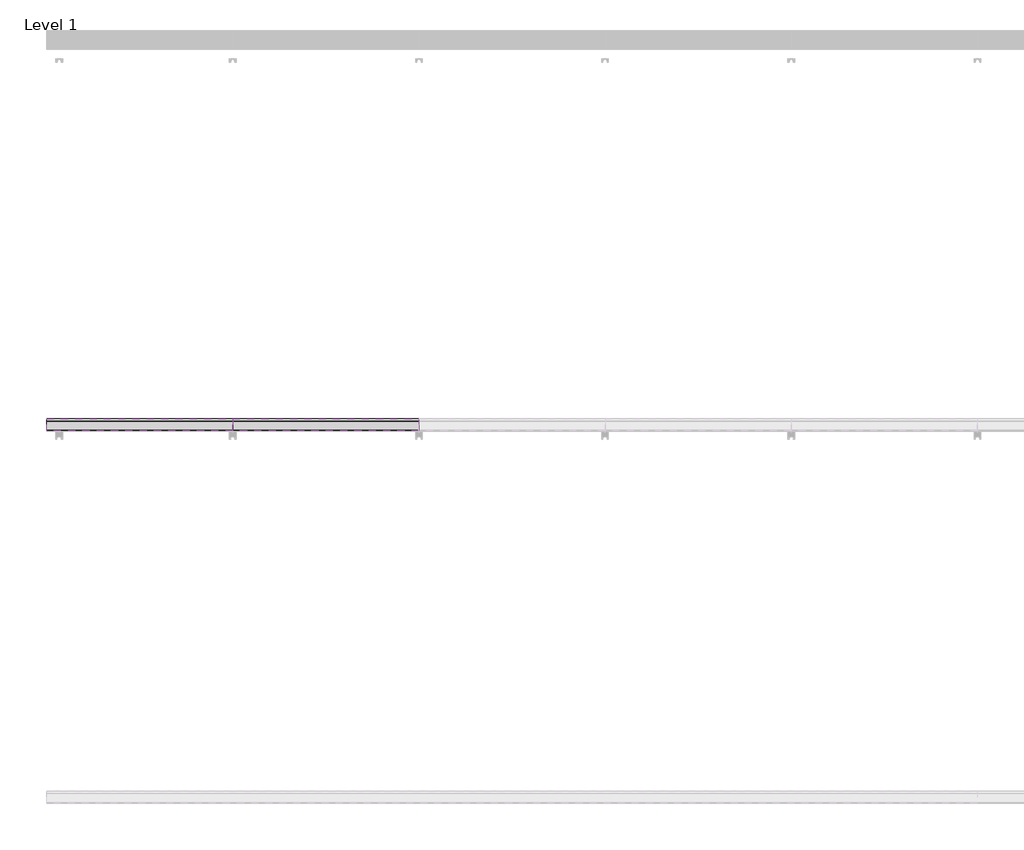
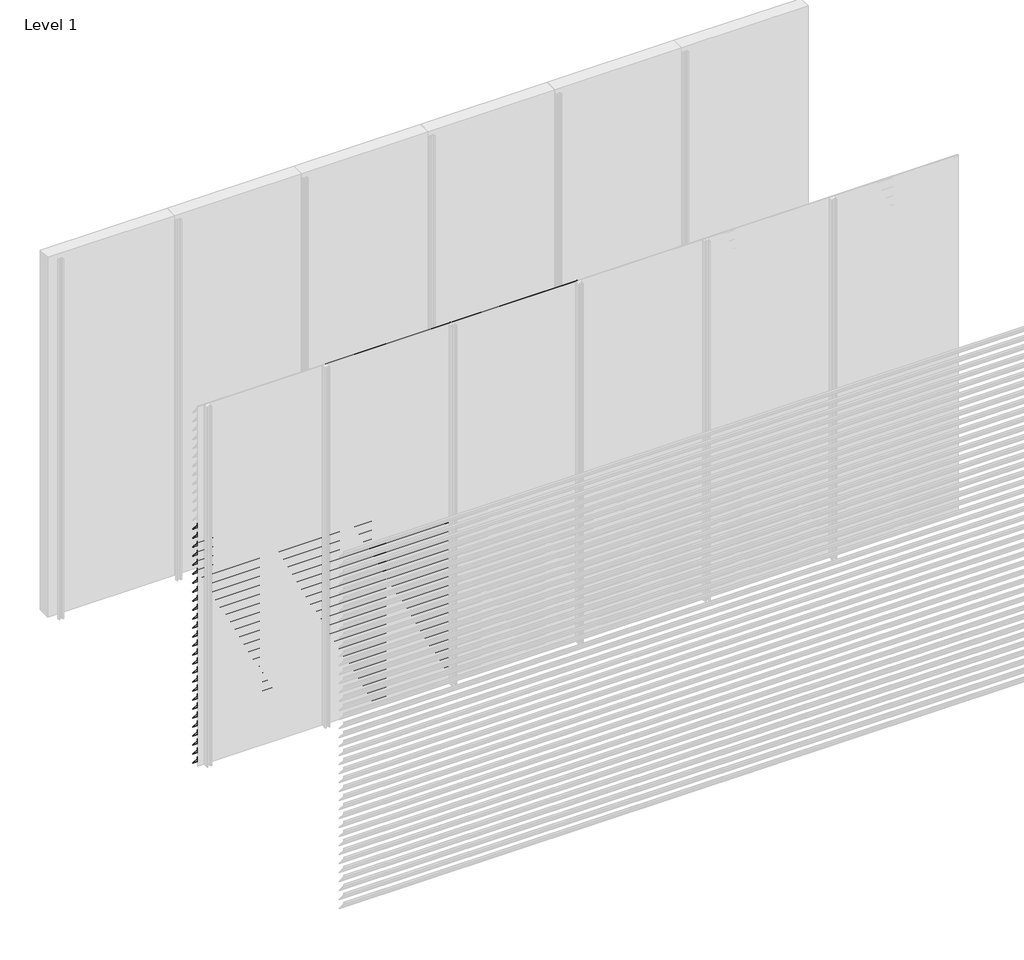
# One storey, part 27 of 35: 86 proxies.
"""IFC4 building model written with IfcOpenShell, lengths in millimetres."""

from ifc_helpers import new_model, si_unit, frame, origin, place, context, project, spatial, polyline, outline, extrude, element, save

model = new_model("IFC4")

# Units and contexts
model_context = context("Model", 3, world=origin())
ifc_project = project(units=[si_unit("LENGTHUNIT", "METRE", prefix="MILLI")], contexts=[model_context])

# Site, building, storey
site = spatial("IfcSite", under=ifc_project)
building = spatial("IfcBuilding", under=site)
storey = spatial("IfcBuildingStorey", under=building, Name="Level 1", Elevation=0.0)

# Proxies
placement = place(None, origin())
element("IfcBuildingElementProxy", 1, Name="Wall Sweeps", at=placement, inside=storey, context=model_context, shape_type="SweptSolid", body=[
    extrude(outline(polyline([(-11996.5, 2025.0), (-11996.5, 2010.5463701), (-11934.5, 1938.9330051), (-11934.5, 1935.4), (-11936.0, 1935.4), (-11936.0, 1938.3738975), (-11998.0, 2009.9872626), (-11998.0, 2025.0), (-11996.5, 2025.0)])), frame((0.0, 0.0, 0.0), z_axis=(1.0, 0.0, 0.0), x_axis=(0.0, 1.0, 0.0)), (0.0, 0.0, 1.0), 1000.0),
])
element("IfcBuildingElementProxy", 2, Name="Wall Sweeps", at=placement, inside=storey, context=model_context, shape_type="SweptSolid", body=[
    extrude(outline(polyline([(-11996.5, 1950.0), (-11996.5, 1935.5463701), (-11934.5, 1863.9330051), (-11934.5, 1860.4), (-11936.0, 1860.4), (-11936.0, 1863.3738975), (-11998.0, 1934.9872626), (-11998.0, 1950.0), (-11996.5, 1950.0)])), frame((0.0, 0.0, 0.0), z_axis=(1.0, 0.0, 0.0), x_axis=(0.0, 1.0, 0.0)), (0.0, 0.0, 1.0), 1000.0),
])
element("IfcBuildingElementProxy", 3, Name="Wall Sweeps", at=placement, inside=storey, context=model_context, shape_type="SweptSolid", body=[
    extrude(outline(polyline([(-11996.5, 1875.0), (-11996.5, 1860.5463701), (-11934.5, 1788.9330051), (-11934.5, 1785.4), (-11936.0, 1785.4), (-11936.0, 1788.3738975), (-11998.0, 1859.9872626), (-11998.0, 1875.0), (-11996.5, 1875.0)])), frame((0.0, 0.0, 0.0), z_axis=(1.0, 0.0, 0.0), x_axis=(0.0, 1.0, 0.0)), (0.0, 0.0, 1.0), 1000.0),
])
element("IfcBuildingElementProxy", 4, Name="Wall Sweeps", at=placement, inside=storey, context=model_context, shape_type="SweptSolid", body=[
    extrude(outline(polyline([(-11996.5, 1800.0), (-11996.5, 1785.5463701), (-11934.5, 1713.9330051), (-11934.5, 1710.4), (-11936.0, 1710.4), (-11936.0, 1713.3738975), (-11998.0, 1784.9872626), (-11998.0, 1800.0), (-11996.5, 1800.0)])), frame((0.0, 0.0, 0.0), z_axis=(1.0, 0.0, 0.0), x_axis=(0.0, 1.0, 0.0)), (0.0, 0.0, 1.0), 1000.0),
])
element("IfcBuildingElementProxy", 5, Name="Wall Sweeps", at=placement, inside=storey, context=model_context, shape_type="SweptSolid", body=[
    extrude(outline(polyline([(-11996.5, 1725.0), (-11996.5, 1710.5463701), (-11934.5, 1638.9330051), (-11934.5, 1635.4), (-11936.0, 1635.4), (-11936.0, 1638.3738975), (-11998.0, 1709.9872626), (-11998.0, 1725.0), (-11996.5, 1725.0)])), frame((0.0, 0.0, 0.0), z_axis=(1.0, 0.0, 0.0), x_axis=(0.0, 1.0, 0.0)), (0.0, 0.0, 1.0), 1000.0),
])
element("IfcBuildingElementProxy", 6, Name="Wall Sweeps", at=placement, inside=storey, context=model_context, shape_type="SweptSolid", body=[
    extrude(outline(polyline([(-11996.5, 1650.0), (-11996.5, 1635.5463701), (-11934.5, 1563.9330051), (-11934.5, 1560.4), (-11936.0, 1560.4), (-11936.0, 1563.3738975), (-11998.0, 1634.9872626), (-11998.0, 1650.0), (-11996.5, 1650.0)])), frame((0.0, 0.0, 0.0), z_axis=(1.0, 0.0, 0.0), x_axis=(0.0, 1.0, 0.0)), (0.0, 0.0, 1.0), 1000.0),
])
element("IfcBuildingElementProxy", 7, Name="Wall Sweeps", at=placement, inside=storey, context=model_context, shape_type="SweptSolid", body=[
    extrude(outline(polyline([(-11996.5, 1575.0), (-11996.5, 1560.5463701), (-11934.5, 1488.9330051), (-11934.5, 1485.4), (-11936.0, 1485.4), (-11936.0, 1488.3738975), (-11998.0, 1559.9872626), (-11998.0, 1575.0), (-11996.5, 1575.0)])), frame((0.0, 0.0, 0.0), z_axis=(1.0, 0.0, 0.0), x_axis=(0.0, 1.0, 0.0)), (0.0, 0.0, 1.0), 1000.0),
])
element("IfcBuildingElementProxy", 8, Name="Wall Sweeps", at=placement, inside=storey, context=model_context, shape_type="SweptSolid", body=[
    extrude(outline(polyline([(-11996.5, 1500.0), (-11996.5, 1485.5463701), (-11934.5, 1413.9330051), (-11934.5, 1410.4), (-11936.0, 1410.4), (-11936.0, 1413.3738975), (-11998.0, 1484.9872626), (-11998.0, 1500.0), (-11996.5, 1500.0)])), frame((0.0, 0.0, 0.0), z_axis=(1.0, 0.0, 0.0), x_axis=(0.0, 1.0, 0.0)), (0.0, 0.0, 1.0), 1000.0),
])
element("IfcBuildingElementProxy", 9, Name="Wall Sweeps", at=placement, inside=storey, context=model_context, shape_type="SweptSolid", body=[
    extrude(outline(polyline([(-11996.5, 1425.0), (-11996.5, 1410.5463701), (-11934.5, 1338.9330051), (-11934.5, 1335.4), (-11936.0, 1335.4), (-11936.0, 1338.3738975), (-11998.0, 1409.9872626), (-11998.0, 1425.0), (-11996.5, 1425.0)])), frame((0.0, 0.0, 0.0), z_axis=(1.0, 0.0, 0.0), x_axis=(0.0, 1.0, 0.0)), (0.0, 0.0, 1.0), 1000.0),
])
element("IfcBuildingElementProxy", 10, Name="Wall Sweeps", at=placement, inside=storey, context=model_context, shape_type="SweptSolid", body=[
    extrude(outline(polyline([(-11996.5, 1350.0), (-11996.5, 1335.5463701), (-11934.5, 1263.9330051), (-11934.5, 1260.4), (-11936.0, 1260.4), (-11936.0, 1263.3738975), (-11998.0, 1334.9872626), (-11998.0, 1350.0), (-11996.5, 1350.0)])), frame((0.0, 0.0, 0.0), z_axis=(1.0, 0.0, 0.0), x_axis=(0.0, 1.0, 0.0)), (0.0, 0.0, 1.0), 1000.0),
])
element("IfcBuildingElementProxy", 11, Name="Wall Sweeps", at=placement, inside=storey, context=model_context, shape_type="SweptSolid", body=[
    extrude(outline(polyline([(-11996.5, 1275.0), (-11996.5, 1260.5463701), (-11934.5, 1188.9330051), (-11934.5, 1185.4), (-11936.0, 1185.4), (-11936.0, 1188.3738975), (-11998.0, 1259.9872626), (-11998.0, 1275.0), (-11996.5, 1275.0)])), frame((0.0, 0.0, 0.0), z_axis=(1.0, 0.0, 0.0), x_axis=(0.0, 1.0, 0.0)), (0.0, 0.0, 1.0), 1000.0),
])
element("IfcBuildingElementProxy", 12, Name="Wall Sweeps", at=placement, inside=storey, context=model_context, shape_type="SweptSolid", body=[
    extrude(outline(polyline([(-11996.5, 1200.0), (-11996.5, 1185.5463701), (-11934.5, 1113.9330051), (-11934.5, 1110.4), (-11936.0, 1110.4), (-11936.0, 1113.3738975), (-11998.0, 1184.9872626), (-11998.0, 1200.0), (-11996.5, 1200.0)])), frame((0.0, 0.0, 0.0), z_axis=(1.0, 0.0, 0.0), x_axis=(0.0, 1.0, 0.0)), (0.0, 0.0, 1.0), 1000.0),
])
element("IfcBuildingElementProxy", 13, Name="Wall Sweeps", at=placement, inside=storey, context=model_context, shape_type="SweptSolid", body=[
    extrude(outline(polyline([(-11996.5, 1125.0), (-11996.5, 1110.5463701), (-11934.5, 1038.9330051), (-11934.5, 1035.4), (-11936.0, 1035.4), (-11936.0, 1038.3738975), (-11998.0, 1109.9872626), (-11998.0, 1125.0), (-11996.5, 1125.0)])), frame((0.0, 0.0, 0.0), z_axis=(1.0, 0.0, 0.0), x_axis=(0.0, 1.0, 0.0)), (0.0, 0.0, 1.0), 1000.0),
])
element("IfcBuildingElementProxy", 14, Name="Wall Sweeps", at=placement, inside=storey, context=model_context, shape_type="SweptSolid", body=[
    extrude(outline(polyline([(-11996.5, 1050.0), (-11996.5, 1035.5463701), (-11934.5, 963.9330051), (-11934.5, 960.4), (-11936.0, 960.4), (-11936.0, 963.3738975), (-11998.0, 1034.9872626), (-11998.0, 1050.0), (-11996.5, 1050.0)])), frame((0.0, 0.0, 0.0), z_axis=(1.0, 0.0, 0.0), x_axis=(0.0, 1.0, 0.0)), (0.0, 0.0, 1.0), 1000.0),
])
element("IfcBuildingElementProxy", 15, Name="Wall Sweeps", at=placement, inside=storey, context=model_context, shape_type="SweptSolid", body=[
    extrude(outline(polyline([(-11996.5, 975.0), (-11996.5, 960.5463701), (-11934.5, 888.9330051), (-11934.5, 885.4), (-11936.0, 885.4), (-11936.0, 888.3738975), (-11998.0, 959.9872626), (-11998.0, 975.0), (-11996.5, 975.0)])), frame((0.0, 0.0, 0.0), z_axis=(1.0, 0.0, 0.0), x_axis=(0.0, 1.0, 0.0)), (0.0, 0.0, 1.0), 1000.0),
])
element("IfcBuildingElementProxy", 16, Name="Wall Sweeps", at=placement, inside=storey, context=model_context, shape_type="SweptSolid", body=[
    extrude(outline(polyline([(-11996.5, 900.0), (-11996.5, 885.5463701), (-11934.5, 813.9330051), (-11934.5, 810.4), (-11936.0, 810.4), (-11936.0, 813.3738975), (-11998.0, 884.9872626), (-11998.0, 900.0), (-11996.5, 900.0)])), frame((0.0, 0.0, 0.0), z_axis=(1.0, 0.0, 0.0), x_axis=(0.0, 1.0, 0.0)), (0.0, 0.0, 1.0), 1000.0),
])
element("IfcBuildingElementProxy", 17, Name="Wall Sweeps", at=placement, inside=storey, context=model_context, shape_type="SweptSolid", body=[
    extrude(outline(polyline([(-11996.5, 825.0), (-11996.5, 810.5463701), (-11934.5, 738.9330051), (-11934.5, 735.4), (-11936.0, 735.4), (-11936.0, 738.3738975), (-11998.0, 809.9872626), (-11998.0, 825.0), (-11996.5, 825.0)])), frame((0.0, 0.0, 0.0), z_axis=(1.0, 0.0, 0.0), x_axis=(0.0, 1.0, 0.0)), (0.0, 0.0, 1.0), 1000.0),
])
element("IfcBuildingElementProxy", 18, Name="Wall Sweeps", at=placement, inside=storey, context=model_context, shape_type="SweptSolid", body=[
    extrude(outline(polyline([(-11996.5, 750.0), (-11996.5, 735.5463701), (-11934.5, 663.9330051), (-11934.5, 660.4), (-11936.0, 660.4), (-11936.0, 663.3738975), (-11998.0, 734.9872626), (-11998.0, 750.0), (-11996.5, 750.0)])), frame((0.0, 0.0, 0.0), z_axis=(1.0, 0.0, 0.0), x_axis=(0.0, 1.0, 0.0)), (0.0, 0.0, 1.0), 1000.0),
])
element("IfcBuildingElementProxy", 19, Name="Wall Sweeps", at=placement, inside=storey, context=model_context, shape_type="SweptSolid", body=[
    extrude(outline(polyline([(-11996.5, 675.0), (-11996.5, 660.5463701), (-11934.5, 588.9330051), (-11934.5, 585.4), (-11936.0, 585.4), (-11936.0, 588.3738975), (-11998.0, 659.9872626), (-11998.0, 675.0), (-11996.5, 675.0)])), frame((0.0, 0.0, 0.0), z_axis=(1.0, 0.0, 0.0), x_axis=(0.0, 1.0, 0.0)), (0.0, 0.0, 1.0), 1000.0),
])
element("IfcBuildingElementProxy", 20, Name="Wall Sweeps", at=placement, inside=storey, context=model_context, shape_type="SweptSolid", body=[
    extrude(outline(polyline([(-11996.5, 600.0), (-11996.5, 585.5463701), (-11934.5, 513.9330051), (-11934.5, 510.4), (-11936.0, 510.4), (-11936.0, 513.3738975), (-11998.0, 584.9872626), (-11998.0, 600.0), (-11996.5, 600.0)])), frame((0.0, 0.0, 0.0), z_axis=(1.0, 0.0, 0.0), x_axis=(0.0, 1.0, 0.0)), (0.0, 0.0, 1.0), 1000.0),
])
element("IfcBuildingElementProxy", 21, Name="Wall Sweeps", at=placement, inside=storey, context=model_context, shape_type="SweptSolid", body=[
    extrude(outline(polyline([(-11996.5, 525.0), (-11996.5, 510.5463701), (-11934.5, 438.9330051), (-11934.5, 435.4), (-11936.0, 435.4), (-11936.0, 438.3738975), (-11998.0, 509.9872626), (-11998.0, 525.0), (-11996.5, 525.0)])), frame((0.0, 0.0, 0.0), z_axis=(1.0, 0.0, 0.0), x_axis=(0.0, 1.0, 0.0)), (0.0, 0.0, 1.0), 1000.0),
])
element("IfcBuildingElementProxy", 22, Name="Wall Sweeps", at=placement, inside=storey, context=model_context, shape_type="SweptSolid", body=[
    extrude(outline(polyline([(-11996.5, 450.0), (-11996.5, 435.5463701), (-11934.5, 363.9330051), (-11934.5, 360.4), (-11936.0, 360.4), (-11936.0, 363.3738975), (-11998.0, 434.9872626), (-11998.0, 450.0), (-11996.5, 450.0)])), frame((0.0, 0.0, 0.0), z_axis=(1.0, 0.0, 0.0), x_axis=(0.0, 1.0, 0.0)), (0.0, 0.0, 1.0), 1000.0),
])
element("IfcBuildingElementProxy", 23, Name="Wall Sweeps", at=placement, inside=storey, context=model_context, shape_type="SweptSolid", body=[
    extrude(outline(polyline([(-11996.5, 375.0), (-11996.5, 360.5463701), (-11934.5, 288.9330051), (-11934.5, 285.4), (-11936.0, 285.4), (-11936.0, 288.3738975), (-11998.0, 359.9872626), (-11998.0, 375.0), (-11996.5, 375.0)])), frame((0.0, 0.0, 0.0), z_axis=(1.0, 0.0, 0.0), x_axis=(0.0, 1.0, 0.0)), (0.0, 0.0, 1.0), 1000.0),
])
element("IfcBuildingElementProxy", 24, Name="Wall Sweeps", at=placement, inside=storey, context=model_context, shape_type="SweptSolid", body=[
    extrude(outline(polyline([(-11996.5, 300.0), (-11996.5, 285.5463701), (-11934.5, 213.9330051), (-11934.5, 210.4), (-11936.0, 210.4), (-11936.0, 213.3738975), (-11998.0, 284.9872626), (-11998.0, 300.0), (-11996.5, 300.0)])), frame((0.0, 0.0, 0.0), z_axis=(1.0, 0.0, 0.0), x_axis=(0.0, 1.0, 0.0)), (0.0, 0.0, 1.0), 1000.0),
])
element("IfcBuildingElementProxy", 25, Name="Wall Sweeps", at=placement, inside=storey, context=model_context, shape_type="SweptSolid", body=[
    extrude(outline(polyline([(-11996.5, 225.0), (-11996.5, 210.5463701), (-11934.5, 138.9330051), (-11934.5, 135.4), (-11936.0, 135.4), (-11936.0, 138.3738975), (-11998.0, 209.9872626), (-11998.0, 225.0), (-11996.5, 225.0)])), frame((0.0, 0.0, 0.0), z_axis=(1.0, 0.0, 0.0), x_axis=(0.0, 1.0, 0.0)), (0.0, 0.0, 1.0), 1000.0),
])
element("IfcBuildingElementProxy", 26, Name="Wall Sweeps", at=placement, inside=storey, context=model_context, shape_type="SweptSolid", body=[
    extrude(outline(polyline([(-11996.5, 150.0), (-11996.5, 135.5463701), (-11934.5, 63.9330051), (-11934.5, 60.4), (-11936.0, 60.4), (-11936.0, 63.3738975), (-11998.0, 134.9872626), (-11998.0, 150.0), (-11996.5, 150.0)])), frame((0.0, 0.0, 0.0), z_axis=(1.0, 0.0, 0.0), x_axis=(0.0, 1.0, 0.0)), (0.0, 0.0, 1.0), 1000.0),
])
element("IfcBuildingElementProxy", 27, Name="Wall Sweeps", at=placement, inside=storey, context=model_context, shape_type="SweptSolid", body=[
    extrude(outline(polyline([(-11996.5, 75.0), (-11996.5, 60.5463701), (-11934.5, -11.0669949), (-11934.5, -14.6), (-11936.0, -14.6), (-11936.0, -11.6261025), (-11998.0, 59.9872626), (-11998.0, 75.0), (-11996.5, 75.0)])), frame((0.0, 0.0, 0.0), z_axis=(1.0, 0.0, 0.0), x_axis=(0.0, 1.0, 0.0)), (0.0, 0.0, 1.0), 1000.0),
])
element("IfcBuildingElementProxy", 28, Name="Wall Sweeps", at=placement, inside=storey, context=model_context, shape_type="SweptSolid", body=[
    extrude(outline(polyline([(-11996.5, 3000.0), (-11996.5, 2985.5463701), (-11934.5, 2913.9330051), (-11934.5, 2910.4), (-11936.0, 2910.4), (-11936.0, 2913.3738975), (-11998.0, 2984.9872626), (-11998.0, 3000.0), (-11996.5, 3000.0)])), frame((1000.0, 0.0, 0.0), z_axis=(1.0, 0.0, 0.0), x_axis=(0.0, 1.0, 0.0)), (0.0, 0.0, 1.0), 1000.0),
])
element("IfcBuildingElementProxy", 29, Name="Wall Sweeps", at=placement, inside=storey, context=model_context, shape_type="SweptSolid", body=[
    extrude(outline(polyline([(-11996.5, 2925.0), (-11996.5, 2910.5463701), (-11934.5, 2838.9330051), (-11934.5, 2835.4), (-11936.0, 2835.4), (-11936.0, 2838.3738975), (-11998.0, 2909.9872626), (-11998.0, 2925.0), (-11996.5, 2925.0)])), frame((1000.0, 0.0, 0.0), z_axis=(1.0, 0.0, 0.0), x_axis=(0.0, 1.0, 0.0)), (0.0, 0.0, 1.0), 1000.0),
])
element("IfcBuildingElementProxy", 30, Name="Wall Sweeps", at=placement, inside=storey, context=model_context, shape_type="SweptSolid", body=[
    extrude(outline(polyline([(-11996.5, 2850.0), (-11996.5, 2835.5463701), (-11934.5, 2763.9330051), (-11934.5, 2760.4), (-11936.0, 2760.4), (-11936.0, 2763.3738975), (-11998.0, 2834.9872626), (-11998.0, 2850.0), (-11996.5, 2850.0)])), frame((1000.0, 0.0, 0.0), z_axis=(1.0, 0.0, 0.0), x_axis=(0.0, 1.0, 0.0)), (0.0, 0.0, 1.0), 1000.0),
])
element("IfcBuildingElementProxy", 31, Name="Wall Sweeps", at=placement, inside=storey, context=model_context, shape_type="SweptSolid", body=[
    extrude(outline(polyline([(-11996.5, 2775.0), (-11996.5, 2760.5463701), (-11934.5, 2688.9330051), (-11934.5, 2685.4), (-11936.0, 2685.4), (-11936.0, 2688.3738975), (-11998.0, 2759.9872626), (-11998.0, 2775.0), (-11996.5, 2775.0)])), frame((1000.0, 0.0, 0.0), z_axis=(1.0, 0.0, 0.0), x_axis=(0.0, 1.0, 0.0)), (0.0, 0.0, 1.0), 1000.0),
])
element("IfcBuildingElementProxy", 32, Name="Wall Sweeps", at=placement, inside=storey, context=model_context, shape_type="SweptSolid", body=[
    extrude(outline(polyline([(-11996.5, 2700.0), (-11996.5, 2685.5463701), (-11934.5, 2613.9330051), (-11934.5, 2610.4), (-11936.0, 2610.4), (-11936.0, 2613.3738975), (-11998.0, 2684.9872626), (-11998.0, 2700.0), (-11996.5, 2700.0)])), frame((1000.0, 0.0, 0.0), z_axis=(1.0, 0.0, 0.0), x_axis=(0.0, 1.0, 0.0)), (0.0, 0.0, 1.0), 1000.0),
])
element("IfcBuildingElementProxy", 33, Name="Wall Sweeps", at=placement, inside=storey, context=model_context, shape_type="SweptSolid", body=[
    extrude(outline(polyline([(-11996.5, 2625.0), (-11996.5, 2610.5463701), (-11934.5, 2538.9330051), (-11934.5, 2535.4), (-11936.0, 2535.4), (-11936.0, 2538.3738975), (-11998.0, 2609.9872626), (-11998.0, 2625.0), (-11996.5, 2625.0)])), frame((1000.0, 0.0, 0.0), z_axis=(1.0, 0.0, 0.0), x_axis=(0.0, 1.0, 0.0)), (0.0, 0.0, 1.0), 1000.0),
])
element("IfcBuildingElementProxy", 34, Name="Wall Sweeps", at=placement, inside=storey, context=model_context, shape_type="SweptSolid", body=[
    extrude(outline(polyline([(-11996.5, 2550.0), (-11996.5, 2535.5463701), (-11934.5, 2463.9330051), (-11934.5, 2460.4), (-11936.0, 2460.4), (-11936.0, 2463.3738975), (-11998.0, 2534.9872626), (-11998.0, 2550.0), (-11996.5, 2550.0)])), frame((1000.0, 0.0, 0.0), z_axis=(1.0, 0.0, 0.0), x_axis=(0.0, 1.0, 0.0)), (0.0, 0.0, 1.0), 1000.0),
])
element("IfcBuildingElementProxy", 35, Name="Wall Sweeps", at=placement, inside=storey, context=model_context, shape_type="SweptSolid", body=[
    extrude(outline(polyline([(-11996.5, 2475.0), (-11996.5, 2460.5463701), (-11934.5, 2388.9330051), (-11934.5, 2385.4), (-11936.0, 2385.4), (-11936.0, 2388.3738975), (-11998.0, 2459.9872626), (-11998.0, 2475.0), (-11996.5, 2475.0)])), frame((1000.0, 0.0, 0.0), z_axis=(1.0, 0.0, 0.0), x_axis=(0.0, 1.0, 0.0)), (0.0, 0.0, 1.0), 1000.0),
])
element("IfcBuildingElementProxy", 36, Name="Wall Sweeps", at=placement, inside=storey, context=model_context, shape_type="SweptSolid", body=[
    extrude(outline(polyline([(-11996.5, 2400.0), (-11996.5, 2385.5463701), (-11934.5, 2313.9330051), (-11934.5, 2310.4), (-11936.0, 2310.4), (-11936.0, 2313.3738975), (-11998.0, 2384.9872626), (-11998.0, 2400.0), (-11996.5, 2400.0)])), frame((1000.0, 0.0, 0.0), z_axis=(1.0, 0.0, 0.0), x_axis=(0.0, 1.0, 0.0)), (0.0, 0.0, 1.0), 1000.0),
])
element("IfcBuildingElementProxy", 37, Name="Wall Sweeps", at=placement, inside=storey, context=model_context, shape_type="SweptSolid", body=[
    extrude(outline(polyline([(-11996.5, 2325.0), (-11996.5, 2310.5463701), (-11934.5, 2238.9330051), (-11934.5, 2235.4), (-11936.0, 2235.4), (-11936.0, 2238.3738975), (-11998.0, 2309.9872626), (-11998.0, 2325.0), (-11996.5, 2325.0)])), frame((1000.0, 0.0, 0.0), z_axis=(1.0, 0.0, 0.0), x_axis=(0.0, 1.0, 0.0)), (0.0, 0.0, 1.0), 1000.0),
])
element("IfcBuildingElementProxy", 38, Name="Wall Sweeps", at=placement, inside=storey, context=model_context, shape_type="SweptSolid", body=[
    extrude(outline(polyline([(-11996.5, 2250.0), (-11996.5, 2235.5463701), (-11934.5, 2163.9330051), (-11934.5, 2160.4), (-11936.0, 2160.4), (-11936.0, 2163.3738975), (-11998.0, 2234.9872626), (-11998.0, 2250.0), (-11996.5, 2250.0)])), frame((1000.0, 0.0, 0.0), z_axis=(1.0, 0.0, 0.0), x_axis=(0.0, 1.0, 0.0)), (0.0, 0.0, 1.0), 1000.0),
])
element("IfcBuildingElementProxy", 39, Name="Wall Sweeps", at=placement, inside=storey, context=model_context, shape_type="SweptSolid", body=[
    extrude(outline(polyline([(-11996.5, 2175.0), (-11996.5, 2160.5463701), (-11934.5, 2088.9330051), (-11934.5, 2085.4), (-11936.0, 2085.4), (-11936.0, 2088.3738975), (-11998.0, 2159.9872626), (-11998.0, 2175.0), (-11996.5, 2175.0)])), frame((1000.0, 0.0, 0.0), z_axis=(1.0, 0.0, 0.0), x_axis=(0.0, 1.0, 0.0)), (0.0, 0.0, 1.0), 1000.0),
])
element("IfcBuildingElementProxy", 40, Name="Wall Sweeps", at=placement, inside=storey, context=model_context, shape_type="SweptSolid", body=[
    extrude(outline(polyline([(-11996.5, 2100.0), (-11996.5, 2085.5463701), (-11934.5, 2013.9330051), (-11934.5, 2010.4), (-11936.0, 2010.4), (-11936.0, 2013.3738975), (-11998.0, 2084.9872626), (-11998.0, 2100.0), (-11996.5, 2100.0)])), frame((1000.0, 0.0, 0.0), z_axis=(1.0, 0.0, 0.0), x_axis=(0.0, 1.0, 0.0)), (0.0, 0.0, 1.0), 1000.0),
])
element("IfcBuildingElementProxy", 41, Name="Wall Sweeps", at=placement, inside=storey, context=model_context, shape_type="SweptSolid", body=[
    extrude(outline(polyline([(-11996.5, 2025.0), (-11996.5, 2010.5463701), (-11934.5, 1938.9330051), (-11934.5, 1935.4), (-11936.0, 1935.4), (-11936.0, 1938.3738975), (-11998.0, 2009.9872626), (-11998.0, 2025.0), (-11996.5, 2025.0)])), frame((1000.0, 0.0, 0.0), z_axis=(1.0, 0.0, 0.0), x_axis=(0.0, 1.0, 0.0)), (0.0, 0.0, 1.0), 1000.0),
])
element("IfcBuildingElementProxy", 42, Name="Wall Sweeps", at=placement, inside=storey, context=model_context, shape_type="SweptSolid", body=[
    extrude(outline(polyline([(-11996.5, 1950.0), (-11996.5, 1935.5463701), (-11934.5, 1863.9330051), (-11934.5, 1860.4), (-11936.0, 1860.4), (-11936.0, 1863.3738975), (-11998.0, 1934.9872626), (-11998.0, 1950.0), (-11996.5, 1950.0)])), frame((1000.0, 0.0, 0.0), z_axis=(1.0, 0.0, 0.0), x_axis=(0.0, 1.0, 0.0)), (0.0, 0.0, 1.0), 1000.0),
])
element("IfcBuildingElementProxy", 43, Name="Wall Sweeps", at=placement, inside=storey, context=model_context, shape_type="SweptSolid", body=[
    extrude(outline(polyline([(-11996.5, 1875.0), (-11996.5, 1860.5463701), (-11934.5, 1788.9330051), (-11934.5, 1785.4), (-11936.0, 1785.4), (-11936.0, 1788.3738975), (-11998.0, 1859.9872626), (-11998.0, 1875.0), (-11996.5, 1875.0)])), frame((1000.0, 0.0, 0.0), z_axis=(1.0, 0.0, 0.0), x_axis=(0.0, 1.0, 0.0)), (0.0, 0.0, 1.0), 1000.0),
])
element("IfcBuildingElementProxy", 44, Name="Wall Sweeps", at=placement, inside=storey, context=model_context, shape_type="SweptSolid", body=[
    extrude(outline(polyline([(-11996.5, 1800.0), (-11996.5, 1785.5463701), (-11934.5, 1713.9330051), (-11934.5, 1710.4), (-11936.0, 1710.4), (-11936.0, 1713.3738975), (-11998.0, 1784.9872626), (-11998.0, 1800.0), (-11996.5, 1800.0)])), frame((1000.0, 0.0, 0.0), z_axis=(1.0, 0.0, 0.0), x_axis=(0.0, 1.0, 0.0)), (0.0, 0.0, 1.0), 1000.0),
])
element("IfcBuildingElementProxy", 45, Name="Wall Sweeps", at=placement, inside=storey, context=model_context, shape_type="SweptSolid", body=[
    extrude(outline(polyline([(-11996.5, 1725.0), (-11996.5, 1710.5463701), (-11934.5, 1638.9330051), (-11934.5, 1635.4), (-11936.0, 1635.4), (-11936.0, 1638.3738975), (-11998.0, 1709.9872626), (-11998.0, 1725.0), (-11996.5, 1725.0)])), frame((1000.0, 0.0, 0.0), z_axis=(1.0, 0.0, 0.0), x_axis=(0.0, 1.0, 0.0)), (0.0, 0.0, 1.0), 1000.0),
])
element("IfcBuildingElementProxy", 46, Name="Wall Sweeps", at=placement, inside=storey, context=model_context, shape_type="SweptSolid", body=[
    extrude(outline(polyline([(-11996.5, 1650.0), (-11996.5, 1635.5463701), (-11934.5, 1563.9330051), (-11934.5, 1560.4), (-11936.0, 1560.4), (-11936.0, 1563.3738975), (-11998.0, 1634.9872626), (-11998.0, 1650.0), (-11996.5, 1650.0)])), frame((1000.0, 0.0, 0.0), z_axis=(1.0, 0.0, 0.0), x_axis=(0.0, 1.0, 0.0)), (0.0, 0.0, 1.0), 1000.0),
])
element("IfcBuildingElementProxy", 47, Name="Wall Sweeps", at=placement, inside=storey, context=model_context, shape_type="SweptSolid", body=[
    extrude(outline(polyline([(-11996.5, 1575.0), (-11996.5, 1560.5463701), (-11934.5, 1488.9330051), (-11934.5, 1485.4), (-11936.0, 1485.4), (-11936.0, 1488.3738975), (-11998.0, 1559.9872626), (-11998.0, 1575.0), (-11996.5, 1575.0)])), frame((1000.0, 0.0, 0.0), z_axis=(1.0, 0.0, 0.0), x_axis=(0.0, 1.0, 0.0)), (0.0, 0.0, 1.0), 1000.0),
])
element("IfcBuildingElementProxy", 48, Name="Wall Sweeps", at=placement, inside=storey, context=model_context, shape_type="SweptSolid", body=[
    extrude(outline(polyline([(-11996.5, 1500.0), (-11996.5, 1485.5463701), (-11934.5, 1413.9330051), (-11934.5, 1410.4), (-11936.0, 1410.4), (-11936.0, 1413.3738975), (-11998.0, 1484.9872626), (-11998.0, 1500.0), (-11996.5, 1500.0)])), frame((1000.0, 0.0, 0.0), z_axis=(1.0, 0.0, 0.0), x_axis=(0.0, 1.0, 0.0)), (0.0, 0.0, 1.0), 1000.0),
])
element("IfcBuildingElementProxy", 49, Name="Wall Sweeps", at=placement, inside=storey, context=model_context, shape_type="SweptSolid", body=[
    extrude(outline(polyline([(-11996.5, 1425.0), (-11996.5, 1410.5463701), (-11934.5, 1338.9330051), (-11934.5, 1335.4), (-11936.0, 1335.4), (-11936.0, 1338.3738975), (-11998.0, 1409.9872626), (-11998.0, 1425.0), (-11996.5, 1425.0)])), frame((1000.0, 0.0, 0.0), z_axis=(1.0, 0.0, 0.0), x_axis=(0.0, 1.0, 0.0)), (0.0, 0.0, 1.0), 1000.0),
])
element("IfcBuildingElementProxy", 50, Name="Wall Sweeps", at=placement, inside=storey, context=model_context, shape_type="SweptSolid", body=[
    extrude(outline(polyline([(-11996.5, 1350.0), (-11996.5, 1335.5463701), (-11934.5, 1263.9330051), (-11934.5, 1260.4), (-11936.0, 1260.4), (-11936.0, 1263.3738975), (-11998.0, 1334.9872626), (-11998.0, 1350.0), (-11996.5, 1350.0)])), frame((1000.0, 0.0, 0.0), z_axis=(1.0, 0.0, 0.0), x_axis=(0.0, 1.0, 0.0)), (0.0, 0.0, 1.0), 1000.0),
])
element("IfcBuildingElementProxy", 51, Name="Wall Sweeps", at=placement, inside=storey, context=model_context, shape_type="SweptSolid", body=[
    extrude(outline(polyline([(-11996.5, 1275.0), (-11996.5, 1260.5463701), (-11934.5, 1188.9330051), (-11934.5, 1185.4), (-11936.0, 1185.4), (-11936.0, 1188.3738975), (-11998.0, 1259.9872626), (-11998.0, 1275.0), (-11996.5, 1275.0)])), frame((1000.0, 0.0, 0.0), z_axis=(1.0, 0.0, 0.0), x_axis=(0.0, 1.0, 0.0)), (0.0, 0.0, 1.0), 1000.0),
])
element("IfcBuildingElementProxy", 52, Name="Wall Sweeps", at=placement, inside=storey, context=model_context, shape_type="SweptSolid", body=[
    extrude(outline(polyline([(-11996.5, 1200.0), (-11996.5, 1185.5463701), (-11934.5, 1113.9330051), (-11934.5, 1110.4), (-11936.0, 1110.4), (-11936.0, 1113.3738975), (-11998.0, 1184.9872626), (-11998.0, 1200.0), (-11996.5, 1200.0)])), frame((1000.0, 0.0, 0.0), z_axis=(1.0, 0.0, 0.0), x_axis=(0.0, 1.0, 0.0)), (0.0, 0.0, 1.0), 1000.0),
])
element("IfcBuildingElementProxy", 53, Name="Wall Sweeps", at=placement, inside=storey, context=model_context, shape_type="SweptSolid", body=[
    extrude(outline(polyline([(-11996.5, 1125.0), (-11996.5, 1110.5463701), (-11934.5, 1038.9330051), (-11934.5, 1035.4), (-11936.0, 1035.4), (-11936.0, 1038.3738975), (-11998.0, 1109.9872626), (-11998.0, 1125.0), (-11996.5, 1125.0)])), frame((1000.0, 0.0, 0.0), z_axis=(1.0, 0.0, 0.0), x_axis=(0.0, 1.0, 0.0)), (0.0, 0.0, 1.0), 1000.0),
])
element("IfcBuildingElementProxy", 54, Name="Wall Sweeps", at=placement, inside=storey, context=model_context, shape_type="SweptSolid", body=[
    extrude(outline(polyline([(-11996.5, 1050.0), (-11996.5, 1035.5463701), (-11934.5, 963.9330051), (-11934.5, 960.4), (-11936.0, 960.4), (-11936.0, 963.3738975), (-11998.0, 1034.9872626), (-11998.0, 1050.0), (-11996.5, 1050.0)])), frame((1000.0, 0.0, 0.0), z_axis=(1.0, 0.0, 0.0), x_axis=(0.0, 1.0, 0.0)), (0.0, 0.0, 1.0), 1000.0),
])
element("IfcBuildingElementProxy", 55, Name="Wall Sweeps", at=placement, inside=storey, context=model_context, shape_type="SweptSolid", body=[
    extrude(outline(polyline([(-11996.5, 975.0), (-11996.5, 960.5463701), (-11934.5, 888.9330051), (-11934.5, 885.4), (-11936.0, 885.4), (-11936.0, 888.3738975), (-11998.0, 959.9872626), (-11998.0, 975.0), (-11996.5, 975.0)])), frame((1000.0, 0.0, 0.0), z_axis=(1.0, 0.0, 0.0), x_axis=(0.0, 1.0, 0.0)), (0.0, 0.0, 1.0), 1000.0),
])
element("IfcBuildingElementProxy", 56, Name="Wall Sweeps", at=placement, inside=storey, context=model_context, shape_type="SweptSolid", body=[
    extrude(outline(polyline([(-11996.5, 900.0), (-11996.5, 885.5463701), (-11934.5, 813.9330051), (-11934.5, 810.4), (-11936.0, 810.4), (-11936.0, 813.3738975), (-11998.0, 884.9872626), (-11998.0, 900.0), (-11996.5, 900.0)])), frame((1000.0, 0.0, 0.0), z_axis=(1.0, 0.0, 0.0), x_axis=(0.0, 1.0, 0.0)), (0.0, 0.0, 1.0), 1000.0),
])
element("IfcBuildingElementProxy", 57, Name="Wall Sweeps", at=placement, inside=storey, context=model_context, shape_type="SweptSolid", body=[
    extrude(outline(polyline([(-11996.5, 825.0), (-11996.5, 810.5463701), (-11934.5, 738.9330051), (-11934.5, 735.4), (-11936.0, 735.4), (-11936.0, 738.3738975), (-11998.0, 809.9872626), (-11998.0, 825.0), (-11996.5, 825.0)])), frame((1000.0, 0.0, 0.0), z_axis=(1.0, 0.0, 0.0), x_axis=(0.0, 1.0, 0.0)), (0.0, 0.0, 1.0), 1000.0),
])
element("IfcBuildingElementProxy", 58, Name="Wall Sweeps", at=placement, inside=storey, context=model_context, shape_type="SweptSolid", body=[
    extrude(outline(polyline([(-11996.5, 750.0), (-11996.5, 735.5463701), (-11934.5, 663.9330051), (-11934.5, 660.4), (-11936.0, 660.4), (-11936.0, 663.3738975), (-11998.0, 734.9872626), (-11998.0, 750.0), (-11996.5, 750.0)])), frame((1000.0, 0.0, 0.0), z_axis=(1.0, 0.0, 0.0), x_axis=(0.0, 1.0, 0.0)), (0.0, 0.0, 1.0), 1000.0),
])
element("IfcBuildingElementProxy", 59, Name="Wall Sweeps", at=placement, inside=storey, context=model_context, shape_type="SweptSolid", body=[
    extrude(outline(polyline([(-11996.5, 675.0), (-11996.5, 660.5463701), (-11934.5, 588.9330051), (-11934.5, 585.4), (-11936.0, 585.4), (-11936.0, 588.3738975), (-11998.0, 659.9872626), (-11998.0, 675.0), (-11996.5, 675.0)])), frame((1000.0, 0.0, 0.0), z_axis=(1.0, 0.0, 0.0), x_axis=(0.0, 1.0, 0.0)), (0.0, 0.0, 1.0), 1000.0),
])
element("IfcBuildingElementProxy", 60, Name="Wall Sweeps", at=placement, inside=storey, context=model_context, shape_type="SweptSolid", body=[
    extrude(outline(polyline([(-11996.5, 600.0), (-11996.5, 585.5463701), (-11934.5, 513.9330051), (-11934.5, 510.4), (-11936.0, 510.4), (-11936.0, 513.3738975), (-11998.0, 584.9872626), (-11998.0, 600.0), (-11996.5, 600.0)])), frame((1000.0, 0.0, 0.0), z_axis=(1.0, 0.0, 0.0), x_axis=(0.0, 1.0, 0.0)), (0.0, 0.0, 1.0), 1000.0),
])
element("IfcBuildingElementProxy", 61, Name="Wall Sweeps", at=placement, inside=storey, context=model_context, shape_type="SweptSolid", body=[
    extrude(outline(polyline([(-11996.5, 525.0), (-11996.5, 510.5463701), (-11934.5, 438.9330051), (-11934.5, 435.4), (-11936.0, 435.4), (-11936.0, 438.3738975), (-11998.0, 509.9872626), (-11998.0, 525.0), (-11996.5, 525.0)])), frame((1000.0, 0.0, 0.0), z_axis=(1.0, 0.0, 0.0), x_axis=(0.0, 1.0, 0.0)), (0.0, 0.0, 1.0), 1000.0),
])
element("IfcBuildingElementProxy", 62, Name="Wall Sweeps", at=placement, inside=storey, context=model_context, shape_type="SweptSolid", body=[
    extrude(outline(polyline([(-11996.5, 450.0), (-11996.5, 435.5463701), (-11934.5, 363.9330051), (-11934.5, 360.4), (-11936.0, 360.4), (-11936.0, 363.3738975), (-11998.0, 434.9872626), (-11998.0, 450.0), (-11996.5, 450.0)])), frame((1000.0, 0.0, 0.0), z_axis=(1.0, 0.0, 0.0), x_axis=(0.0, 1.0, 0.0)), (0.0, 0.0, 1.0), 1000.0),
])
element("IfcBuildingElementProxy", 63, Name="Wall Sweeps", at=placement, inside=storey, context=model_context, shape_type="SweptSolid", body=[
    extrude(outline(polyline([(-11996.5, 375.0), (-11996.5, 360.5463701), (-11934.5, 288.9330051), (-11934.5, 285.4), (-11936.0, 285.4), (-11936.0, 288.3738975), (-11998.0, 359.9872626), (-11998.0, 375.0), (-11996.5, 375.0)])), frame((1000.0, 0.0, 0.0), z_axis=(1.0, 0.0, 0.0), x_axis=(0.0, 1.0, 0.0)), (0.0, 0.0, 1.0), 1000.0),
])
element("IfcBuildingElementProxy", 64, Name="Wall Sweeps", at=placement, inside=storey, context=model_context, shape_type="SweptSolid", body=[
    extrude(outline(polyline([(-11996.5, 300.0), (-11996.5, 285.5463701), (-11934.5, 213.9330051), (-11934.5, 210.4), (-11936.0, 210.4), (-11936.0, 213.3738975), (-11998.0, 284.9872626), (-11998.0, 300.0), (-11996.5, 300.0)])), frame((1000.0, 0.0, 0.0), z_axis=(1.0, 0.0, 0.0), x_axis=(0.0, 1.0, 0.0)), (0.0, 0.0, 1.0), 1000.0),
])
element("IfcBuildingElementProxy", 65, Name="Wall Sweeps", at=placement, inside=storey, context=model_context, shape_type="SweptSolid", body=[
    extrude(outline(polyline([(-11996.5, 225.0), (-11996.5, 210.5463701), (-11934.5, 138.9330051), (-11934.5, 135.4), (-11936.0, 135.4), (-11936.0, 138.3738975), (-11998.0, 209.9872626), (-11998.0, 225.0), (-11996.5, 225.0)])), frame((1000.0, 0.0, 0.0), z_axis=(1.0, 0.0, 0.0), x_axis=(0.0, 1.0, 0.0)), (0.0, 0.0, 1.0), 1000.0),
])
element("IfcBuildingElementProxy", 66, Name="Wall Sweeps", at=placement, inside=storey, context=model_context, shape_type="SweptSolid", body=[
    extrude(outline(polyline([(-11996.5, 150.0), (-11996.5, 135.5463701), (-11934.5, 63.9330051), (-11934.5, 60.4), (-11936.0, 60.4), (-11936.0, 63.3738975), (-11998.0, 134.9872626), (-11998.0, 150.0), (-11996.5, 150.0)])), frame((1000.0, 0.0, 0.0), z_axis=(1.0, 0.0, 0.0), x_axis=(0.0, 1.0, 0.0)), (0.0, 0.0, 1.0), 1000.0),
])
element("IfcBuildingElementProxy", 67, Name="Wall Sweeps", at=placement, inside=storey, context=model_context, shape_type="SweptSolid", body=[
    extrude(outline(polyline([(-11996.5, 75.0), (-11996.5, 60.5463701), (-11934.5, -11.0669949), (-11934.5, -14.6), (-11936.0, -14.6), (-11936.0, -11.6261025), (-11998.0, 59.9872626), (-11998.0, 75.0), (-11996.5, 75.0)])), frame((1000.0, 0.0, 0.0), z_axis=(1.0, 0.0, 0.0), x_axis=(0.0, 1.0, 0.0)), (0.0, 0.0, 1.0), 1000.0),
])
element("IfcBuildingElementProxy", 68, Name="Wall Sweeps", at=placement, inside=storey, context=model_context, shape_type="SweptSolid", body=[
    extrude(outline(polyline([(-11996.5, 3000.0), (-11996.5, 2985.5463701), (-11934.5, 2913.9330051), (-11934.5, 2910.4), (-11936.0, 2910.4), (-11936.0, 2913.3738975), (-11998.0, 2984.9872626), (-11998.0, 3000.0), (-11996.5, 3000.0)])), frame((2000.0, 0.0, 0.0), z_axis=(1.0, 0.0, 0.0), x_axis=(0.0, 1.0, 0.0)), (0.0, 0.0, 1.0), 1000.0),
])
element("IfcBuildingElementProxy", 69, Name="Wall Sweeps", at=placement, inside=storey, context=model_context, shape_type="SweptSolid", body=[
    extrude(outline(polyline([(-11996.5, 2925.0), (-11996.5, 2910.5463701), (-11934.5, 2838.9330051), (-11934.5, 2835.4), (-11936.0, 2835.4), (-11936.0, 2838.3738975), (-11998.0, 2909.9872626), (-11998.0, 2925.0), (-11996.5, 2925.0)])), frame((2000.0, 0.0, 0.0), z_axis=(1.0, 0.0, 0.0), x_axis=(0.0, 1.0, 0.0)), (0.0, 0.0, 1.0), 1000.0),
])
element("IfcBuildingElementProxy", 70, Name="Wall Sweeps", at=placement, inside=storey, context=model_context, shape_type="SweptSolid", body=[
    extrude(outline(polyline([(-11996.5, 2850.0), (-11996.5, 2835.5463701), (-11934.5, 2763.9330051), (-11934.5, 2760.4), (-11936.0, 2760.4), (-11936.0, 2763.3738975), (-11998.0, 2834.9872626), (-11998.0, 2850.0), (-11996.5, 2850.0)])), frame((2000.0, 0.0, 0.0), z_axis=(1.0, 0.0, 0.0), x_axis=(0.0, 1.0, 0.0)), (0.0, 0.0, 1.0), 1000.0),
])
element("IfcBuildingElementProxy", 71, Name="Wall Sweeps", at=placement, inside=storey, context=model_context, shape_type="SweptSolid", body=[
    extrude(outline(polyline([(-11996.5, 2775.0), (-11996.5, 2760.5463701), (-11934.5, 2688.9330051), (-11934.5, 2685.4), (-11936.0, 2685.4), (-11936.0, 2688.3738975), (-11998.0, 2759.9872626), (-11998.0, 2775.0), (-11996.5, 2775.0)])), frame((2000.0, 0.0, 0.0), z_axis=(1.0, 0.0, 0.0), x_axis=(0.0, 1.0, 0.0)), (0.0, 0.0, 1.0), 1000.0),
])
element("IfcBuildingElementProxy", 72, Name="Wall Sweeps", at=placement, inside=storey, context=model_context, shape_type="SweptSolid", body=[
    extrude(outline(polyline([(-11996.5, 2700.0), (-11996.5, 2685.5463701), (-11934.5, 2613.9330051), (-11934.5, 2610.4), (-11936.0, 2610.4), (-11936.0, 2613.3738975), (-11998.0, 2684.9872626), (-11998.0, 2700.0), (-11996.5, 2700.0)])), frame((2000.0, 0.0, 0.0), z_axis=(1.0, 0.0, 0.0), x_axis=(0.0, 1.0, 0.0)), (0.0, 0.0, 1.0), 1000.0),
])
element("IfcBuildingElementProxy", 73, Name="Wall Sweeps", at=placement, inside=storey, context=model_context, shape_type="SweptSolid", body=[
    extrude(outline(polyline([(-11996.5, 2625.0), (-11996.5, 2610.5463701), (-11934.5, 2538.9330051), (-11934.5, 2535.4), (-11936.0, 2535.4), (-11936.0, 2538.3738975), (-11998.0, 2609.9872626), (-11998.0, 2625.0), (-11996.5, 2625.0)])), frame((2000.0, 0.0, 0.0), z_axis=(1.0, 0.0, 0.0), x_axis=(0.0, 1.0, 0.0)), (0.0, 0.0, 1.0), 1000.0),
])
element("IfcBuildingElementProxy", 74, Name="Wall Sweeps", at=placement, inside=storey, context=model_context, shape_type="SweptSolid", body=[
    extrude(outline(polyline([(-11996.5, 2550.0), (-11996.5, 2535.5463701), (-11934.5, 2463.9330051), (-11934.5, 2460.4), (-11936.0, 2460.4), (-11936.0, 2463.3738975), (-11998.0, 2534.9872626), (-11998.0, 2550.0), (-11996.5, 2550.0)])), frame((2000.0, 0.0, 0.0), z_axis=(1.0, 0.0, 0.0), x_axis=(0.0, 1.0, 0.0)), (0.0, 0.0, 1.0), 1000.0),
])
element("IfcBuildingElementProxy", 75, Name="Wall Sweeps", at=placement, inside=storey, context=model_context, shape_type="SweptSolid", body=[
    extrude(outline(polyline([(-11996.5, 2475.0), (-11996.5, 2460.5463701), (-11934.5, 2388.9330051), (-11934.5, 2385.4), (-11936.0, 2385.4), (-11936.0, 2388.3738975), (-11998.0, 2459.9872626), (-11998.0, 2475.0), (-11996.5, 2475.0)])), frame((2000.0, 0.0, 0.0), z_axis=(1.0, 0.0, 0.0), x_axis=(0.0, 1.0, 0.0)), (0.0, 0.0, 1.0), 1000.0),
])
element("IfcBuildingElementProxy", 76, Name="Wall Sweeps", at=placement, inside=storey, context=model_context, shape_type="SweptSolid", body=[
    extrude(outline(polyline([(-11996.5, 2400.0), (-11996.5, 2385.5463701), (-11934.5, 2313.9330051), (-11934.5, 2310.4), (-11936.0, 2310.4), (-11936.0, 2313.3738975), (-11998.0, 2384.9872626), (-11998.0, 2400.0), (-11996.5, 2400.0)])), frame((2000.0, 0.0, 0.0), z_axis=(1.0, 0.0, 0.0), x_axis=(0.0, 1.0, 0.0)), (0.0, 0.0, 1.0), 1000.0),
])
element("IfcBuildingElementProxy", 77, Name="Wall Sweeps", at=placement, inside=storey, context=model_context, shape_type="SweptSolid", body=[
    extrude(outline(polyline([(-11996.5, 2325.0), (-11996.5, 2310.5463701), (-11934.5, 2238.9330051), (-11934.5, 2235.4), (-11936.0, 2235.4), (-11936.0, 2238.3738975), (-11998.0, 2309.9872626), (-11998.0, 2325.0), (-11996.5, 2325.0)])), frame((2000.0, 0.0, 0.0), z_axis=(1.0, 0.0, 0.0), x_axis=(0.0, 1.0, 0.0)), (0.0, 0.0, 1.0), 1000.0),
])
element("IfcBuildingElementProxy", 78, Name="Wall Sweeps", at=placement, inside=storey, context=model_context, shape_type="SweptSolid", body=[
    extrude(outline(polyline([(-11996.5, 2250.0), (-11996.5, 2235.5463701), (-11934.5, 2163.9330051), (-11934.5, 2160.4), (-11936.0, 2160.4), (-11936.0, 2163.3738975), (-11998.0, 2234.9872626), (-11998.0, 2250.0), (-11996.5, 2250.0)])), frame((2000.0, 0.0, 0.0), z_axis=(1.0, 0.0, 0.0), x_axis=(0.0, 1.0, 0.0)), (0.0, 0.0, 1.0), 1000.0),
])
element("IfcBuildingElementProxy", 79, Name="Wall Sweeps", at=placement, inside=storey, context=model_context, shape_type="SweptSolid", body=[
    extrude(outline(polyline([(-11996.5, 2175.0), (-11996.5, 2160.5463701), (-11934.5, 2088.9330051), (-11934.5, 2085.4), (-11936.0, 2085.4), (-11936.0, 2088.3738975), (-11998.0, 2159.9872626), (-11998.0, 2175.0), (-11996.5, 2175.0)])), frame((2000.0, 0.0, 0.0), z_axis=(1.0, 0.0, 0.0), x_axis=(0.0, 1.0, 0.0)), (0.0, 0.0, 1.0), 1000.0),
])
element("IfcBuildingElementProxy", 80, Name="Wall Sweeps", at=placement, inside=storey, context=model_context, shape_type="SweptSolid", body=[
    extrude(outline(polyline([(-11996.5, 2100.0), (-11996.5, 2085.5463701), (-11934.5, 2013.9330051), (-11934.5, 2010.4), (-11936.0, 2010.4), (-11936.0, 2013.3738975), (-11998.0, 2084.9872626), (-11998.0, 2100.0), (-11996.5, 2100.0)])), frame((2000.0, 0.0, 0.0), z_axis=(1.0, 0.0, 0.0), x_axis=(0.0, 1.0, 0.0)), (0.0, 0.0, 1.0), 1000.0),
])
element("IfcBuildingElementProxy", 81, Name="Wall Sweeps", at=placement, inside=storey, context=model_context, shape_type="SweptSolid", body=[
    extrude(outline(polyline([(-11996.5, 2025.0), (-11996.5, 2010.5463701), (-11934.5, 1938.9330051), (-11934.5, 1935.4), (-11936.0, 1935.4), (-11936.0, 1938.3738975), (-11998.0, 2009.9872626), (-11998.0, 2025.0), (-11996.5, 2025.0)])), frame((2000.0, 0.0, 0.0), z_axis=(1.0, 0.0, 0.0), x_axis=(0.0, 1.0, 0.0)), (0.0, 0.0, 1.0), 1000.0),
])
element("IfcBuildingElementProxy", 82, Name="Wall Sweeps", at=placement, inside=storey, context=model_context, shape_type="SweptSolid", body=[
    extrude(outline(polyline([(-11996.5, 1950.0), (-11996.5, 1935.5463701), (-11934.5, 1863.9330051), (-11934.5, 1860.4), (-11936.0, 1860.4), (-11936.0, 1863.3738975), (-11998.0, 1934.9872626), (-11998.0, 1950.0), (-11996.5, 1950.0)])), frame((2000.0, 0.0, 0.0), z_axis=(1.0, 0.0, 0.0), x_axis=(0.0, 1.0, 0.0)), (0.0, 0.0, 1.0), 1000.0),
])
element("IfcBuildingElementProxy", 83, Name="Wall Sweeps", at=placement, inside=storey, context=model_context, shape_type="SweptSolid", body=[
    extrude(outline(polyline([(-11996.5, 1875.0), (-11996.5, 1860.5463701), (-11934.5, 1788.9330051), (-11934.5, 1785.4), (-11936.0, 1785.4), (-11936.0, 1788.3738975), (-11998.0, 1859.9872626), (-11998.0, 1875.0), (-11996.5, 1875.0)])), frame((2000.0, 0.0, 0.0), z_axis=(1.0, 0.0, 0.0), x_axis=(0.0, 1.0, 0.0)), (0.0, 0.0, 1.0), 1000.0),
])
element("IfcBuildingElementProxy", 84, Name="Wall Sweeps", at=placement, inside=storey, context=model_context, shape_type="SweptSolid", body=[
    extrude(outline(polyline([(-11996.5, 1800.0), (-11996.5, 1785.5463701), (-11934.5, 1713.9330051), (-11934.5, 1710.4), (-11936.0, 1710.4), (-11936.0, 1713.3738975), (-11998.0, 1784.9872626), (-11998.0, 1800.0), (-11996.5, 1800.0)])), frame((2000.0, 0.0, 0.0), z_axis=(1.0, 0.0, 0.0), x_axis=(0.0, 1.0, 0.0)), (0.0, 0.0, 1.0), 1000.0),
])
element("IfcBuildingElementProxy", 85, Name="Wall Sweeps", at=placement, inside=storey, context=model_context, shape_type="SweptSolid", body=[
    extrude(outline(polyline([(-11996.5, 1725.0), (-11996.5, 1710.5463701), (-11934.5, 1638.9330051), (-11934.5, 1635.4), (-11936.0, 1635.4), (-11936.0, 1638.3738975), (-11998.0, 1709.9872626), (-11998.0, 1725.0), (-11996.5, 1725.0)])), frame((2000.0, 0.0, 0.0), z_axis=(1.0, 0.0, 0.0), x_axis=(0.0, 1.0, 0.0)), (0.0, 0.0, 1.0), 1000.0),
])
element("IfcBuildingElementProxy", 86, Name="Wall Sweeps", at=placement, inside=storey, context=model_context, shape_type="SweptSolid", body=[
    extrude(outline(polyline([(-11996.5, 1650.0), (-11996.5, 1635.5463701), (-11934.5, 1563.9330051), (-11934.5, 1560.4), (-11936.0, 1560.4), (-11936.0, 1563.3738975), (-11998.0, 1634.9872626), (-11998.0, 1650.0), (-11996.5, 1650.0)])), frame((2000.0, 0.0, 0.0), z_axis=(1.0, 0.0, 0.0), x_axis=(0.0, 1.0, 0.0)), (0.0, 0.0, 1.0), 1000.0),
])

save(model, "model.ifc")
